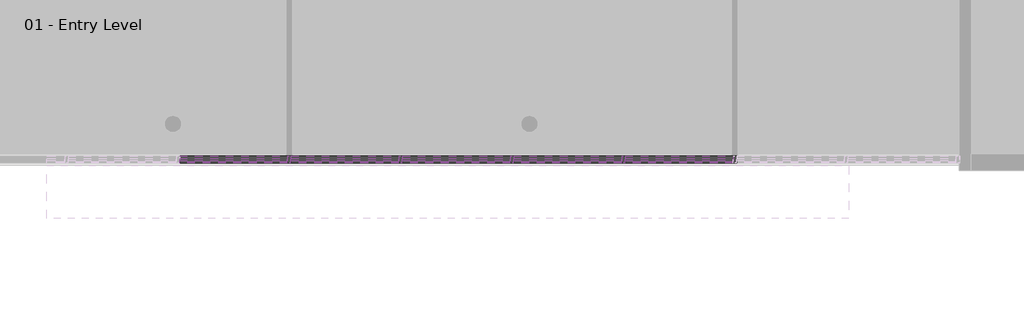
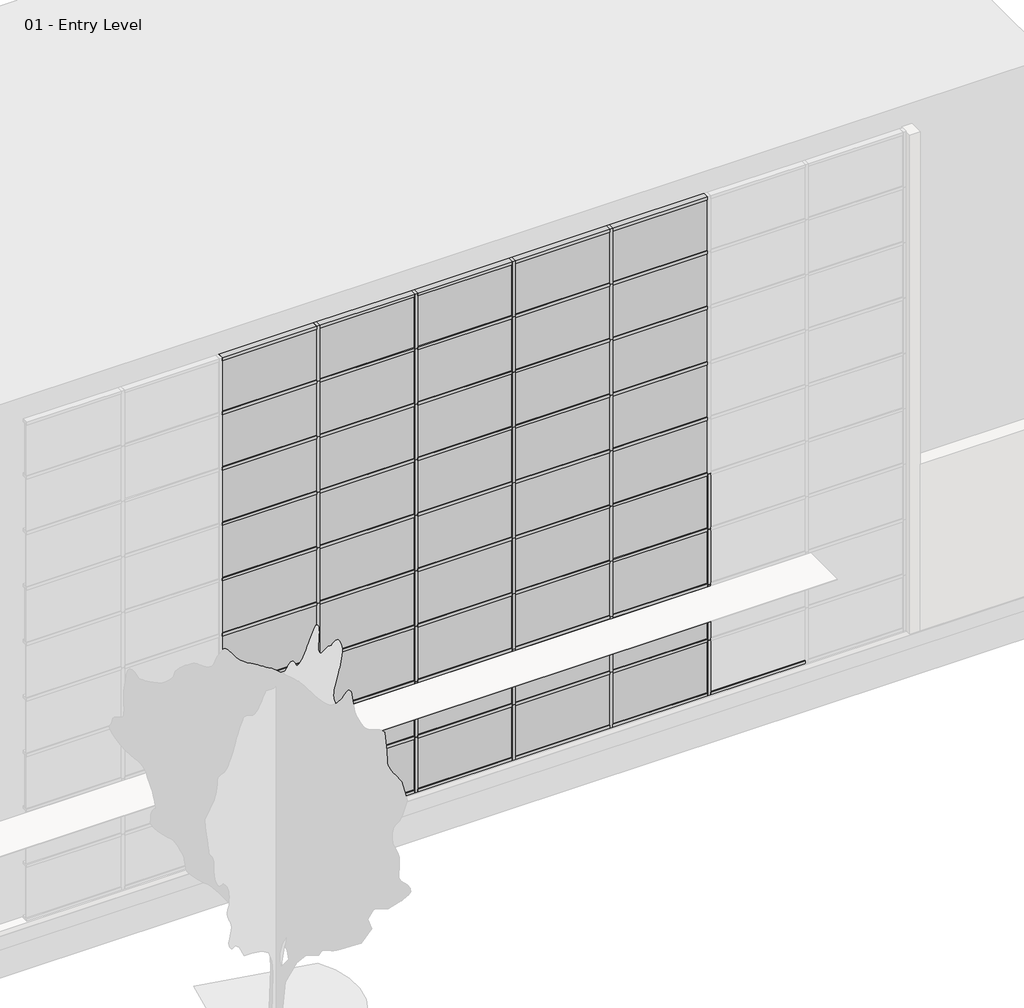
# One storey, part 5 of 35: 90 members, 42 plates.
"""IFC4 building model written with IfcOpenShell, lengths in millimetres."""

from ifc_helpers import new_model, si_unit, origin, place, context, project, spatial, transform, mapped, element, save
from components import member_2b49869a, member_391b434c, member_9e90ae50, system_panel_glazed_1b9d6098, system_panel_glazed_70da479d, system_panel_solid_b376696c, system_panel_solid_77e8b053

model = new_model("IFC4")

# Units and contexts
model_context = context("Model", 3, world=origin())
ifc_project = project(units=[si_unit("LENGTHUNIT", "METRE", prefix="MILLI")], contexts=[model_context])

# Site, building, storey
site = spatial("IfcSite", under=ifc_project)
building = spatial("IfcBuilding", under=site)
storey = spatial("IfcBuildingStorey", under=building, Name="01 - Entry Level", Elevation=0.0)

# Members
placement = place(None, origin())
member_shape = member_2b49869a(model_context)
element("IfcMember", 1, ObjectType="Rectangular Mullion : 2.5\" x 5\" rectangular", at=placement, inside=storey, context=model_context, shape_type="MappedRepresentation", body=[
    mapped(member_shape, transform((50915.2207476, -47.7, 9753.6), x_axis=(1.0, 0.0, 0.0), y_axis=(0.0, -1.0, 0.0), z_axis=(0.0, 0.0, -1.0))),
])
element("IfcMember", 2, ObjectType="Rectangular Mullion : 2.5\" x 5\" rectangular", at=placement, inside=storey, context=model_context, shape_type="MappedRepresentation", body=[
    mapped(member_shape, transform((52947.2207476, -47.7, 9753.6), x_axis=(1.0, 0.0, 0.0), y_axis=(0.0, -1.0, 0.0), z_axis=(0.0, 0.0, -1.0))),
])
element("IfcMember", 3, ObjectType="Rectangular Mullion : 2.5\" x 5\" rectangular", at=placement, inside=storey, context=model_context, shape_type="MappedRepresentation", body=[
    mapped(member_shape, transform((54979.2207476, -47.7, 9753.6), x_axis=(1.0, 0.0, 0.0), y_axis=(0.0, -1.0, 0.0), z_axis=(0.0, 0.0, -1.0))),
])
element("IfcMember", 4, ObjectType="Rectangular Mullion : 2.5\" x 5\" rectangular", at=placement, inside=storey, context=model_context, shape_type="MappedRepresentation", body=[
    mapped(member_shape, transform((57011.2207476, -47.7, 9753.6), x_axis=(1.0, 0.0, 0.0), y_axis=(0.0, -1.0, 0.0), z_axis=(0.0, 0.0, -1.0))),
])
member_2_shape = member_391b434c(model_context)
element("IfcMember", 5, ObjectType="Rectangular Mullion : 2.5\" x 5\" rectangular", at=placement, inside=storey, context=model_context, shape_type="MappedRepresentation", body=[
    mapped(member_2_shape, transform((50883.4707476, -47.7, 10972.8), x_axis=(0.0, 0.0, 1.0), y_axis=(0.0, -1.0, 0.0), z_axis=(1.0, 0.0, 0.0))),
])
element("IfcMember", 6, ObjectType="Rectangular Mullion : 2.5\" x 5\" rectangular", at=placement, inside=storey, context=model_context, shape_type="MappedRepresentation", body=[
    mapped(member_2_shape, transform((52915.4707476, -47.7, 10972.8), x_axis=(0.0, 0.0, 1.0), y_axis=(0.0, -1.0, 0.0), z_axis=(1.0, 0.0, 0.0))),
])
element("IfcMember", 7, ObjectType="Rectangular Mullion : 2.5\" x 5\" rectangular", at=placement, inside=storey, context=model_context, shape_type="MappedRepresentation", body=[
    mapped(member_2_shape, transform((54947.4707476, -47.7, 10972.8), x_axis=(0.0, 0.0, 1.0), y_axis=(0.0, -1.0, 0.0), z_axis=(1.0, 0.0, 0.0))),
])
element("IfcMember", 8, ObjectType="Rectangular Mullion : 2.5\" x 5\" rectangular", at=placement, inside=storey, context=model_context, shape_type="MappedRepresentation", body=[
    mapped(member_2_shape, transform((56979.4707476, -47.7, 10972.8), x_axis=(0.0, 0.0, 1.0), y_axis=(0.0, -1.0, 0.0), z_axis=(1.0, 0.0, 0.0))),
])
element("IfcMember", 9, ObjectType="Rectangular Mullion : 2.5\" x 5\" rectangular", at=placement, inside=storey, context=model_context, shape_type="MappedRepresentation", body=[
    mapped(member_2_shape, transform((59011.4707476, -47.7, 10972.8), x_axis=(0.0, 0.0, 1.0), y_axis=(0.0, -1.0, 0.0), z_axis=(1.0, 0.0, 0.0))),
])
element("IfcMember", 10, ObjectType="Rectangular Mullion : 2.5\" x 5\" rectangular", at=placement, inside=storey, context=model_context, shape_type="MappedRepresentation", body=[
    mapped(member_2_shape, transform((50946.9707476, -47.7, 0.0), x_axis=(0.0, 0.0, -1.0), y_axis=(0.0, -1.0, 0.0), z_axis=(-1.0, 0.0, 0.0))),
])
element("IfcMember", 11, ObjectType="Rectangular Mullion : 2.5\" x 5\" rectangular", at=placement, inside=storey, context=model_context, shape_type="MappedRepresentation", body=[
    mapped(member_2_shape, transform((52978.9707476, -47.7, 0.0), x_axis=(0.0, 0.0, -1.0), y_axis=(0.0, -1.0, 0.0), z_axis=(-1.0, 0.0, 0.0))),
])
element("IfcMember", 12, ObjectType="Rectangular Mullion : 2.5\" x 5\" rectangular", at=placement, inside=storey, context=model_context, shape_type="MappedRepresentation", body=[
    mapped(member_2_shape, transform((55010.9707476, -47.7, 0.0), x_axis=(0.0, 0.0, -1.0), y_axis=(0.0, -1.0, 0.0), z_axis=(-1.0, 0.0, 0.0))),
])
element("IfcMember", 13, ObjectType="Rectangular Mullion : 2.5\" x 5\" rectangular", at=placement, inside=storey, context=model_context, shape_type="MappedRepresentation", body=[
    mapped(member_2_shape, transform((57042.9707476, -47.7, 0.0), x_axis=(0.0, 0.0, -1.0), y_axis=(0.0, -1.0, 0.0), z_axis=(-1.0, 0.0, 0.0))),
])
element("IfcMember", 14, ObjectType="Rectangular Mullion : 2.5\" x 5\" rectangular", at=placement, inside=storey, context=model_context, shape_type="MappedRepresentation", body=[
    mapped(member_2_shape, transform((59074.9707476, -47.7, 0.0), x_axis=(0.0, 0.0, -1.0), y_axis=(0.0, -1.0, 0.0), z_axis=(-1.0, 0.0, 0.0))),
])
member_3_shape = member_9e90ae50(model_context)
element("IfcMember", 15, ObjectType="Rectangular Mullion : 2.5\" x 5\" rectangular", at=placement, inside=storey, context=model_context, shape_type="MappedRepresentation", body=[
    mapped(member_3_shape, transform((50883.4707476, -47.7, 1219.2), x_axis=(0.0, 0.0, 1.0), y_axis=(0.0, -1.0, 0.0), z_axis=(1.0, 0.0, 0.0))),
])
element("IfcMember", 16, ObjectType="Rectangular Mullion : 2.5\" x 5\" rectangular", at=placement, inside=storey, context=model_context, shape_type="MappedRepresentation", body=[
    mapped(member_3_shape, transform((52915.4707476, -47.7, 1219.2), x_axis=(0.0, 0.0, 1.0), y_axis=(0.0, -1.0, 0.0), z_axis=(1.0, 0.0, 0.0))),
])
element("IfcMember", 17, ObjectType="Rectangular Mullion : 2.5\" x 5\" rectangular", at=placement, inside=storey, context=model_context, shape_type="MappedRepresentation", body=[
    mapped(member_3_shape, transform((54947.4707476, -47.7, 1219.2), x_axis=(0.0, 0.0, 1.0), y_axis=(0.0, -1.0, 0.0), z_axis=(1.0, 0.0, 0.0))),
])
element("IfcMember", 18, ObjectType="Rectangular Mullion : 2.5\" x 5\" rectangular", at=placement, inside=storey, context=model_context, shape_type="MappedRepresentation", body=[
    mapped(member_3_shape, transform((56979.4707476, -47.7, 1219.2), x_axis=(0.0, 0.0, 1.0), y_axis=(0.0, -1.0, 0.0), z_axis=(1.0, 0.0, 0.0))),
])
element("IfcMember", 19, ObjectType="Rectangular Mullion : 2.5\" x 5\" rectangular", at=placement, inside=storey, context=model_context, shape_type="MappedRepresentation", body=[
    mapped(member_3_shape, transform((59011.4707476, -47.7, 1219.2), x_axis=(0.0, 0.0, 1.0), y_axis=(0.0, -1.0, 0.0), z_axis=(1.0, 0.0, 0.0))),
])
element("IfcMember", 20, ObjectType="Rectangular Mullion : 2.5\" x 5\" rectangular", at=placement, inside=storey, context=model_context, shape_type="MappedRepresentation", body=[
    mapped(member_3_shape, transform((50883.4707476, -47.7, 2438.4), x_axis=(0.0, 0.0, 1.0), y_axis=(0.0, -1.0, 0.0), z_axis=(1.0, 0.0, 0.0))),
])
element("IfcMember", 21, ObjectType="Rectangular Mullion : 2.5\" x 5\" rectangular", at=placement, inside=storey, context=model_context, shape_type="MappedRepresentation", body=[
    mapped(member_3_shape, transform((52915.4707476, -47.7, 2438.4), x_axis=(0.0, 0.0, 1.0), y_axis=(0.0, -1.0, 0.0), z_axis=(1.0, 0.0, 0.0))),
])
element("IfcMember", 22, ObjectType="Rectangular Mullion : 2.5\" x 5\" rectangular", at=placement, inside=storey, context=model_context, shape_type="MappedRepresentation", body=[
    mapped(member_3_shape, transform((54947.4707476, -47.7, 2438.4), x_axis=(0.0, 0.0, 1.0), y_axis=(0.0, -1.0, 0.0), z_axis=(1.0, 0.0, 0.0))),
])
element("IfcMember", 23, ObjectType="Rectangular Mullion : 2.5\" x 5\" rectangular", at=placement, inside=storey, context=model_context, shape_type="MappedRepresentation", body=[
    mapped(member_3_shape, transform((56979.4707476, -47.7, 2438.4), x_axis=(0.0, 0.0, 1.0), y_axis=(0.0, -1.0, 0.0), z_axis=(1.0, 0.0, 0.0))),
])
element("IfcMember", 24, ObjectType="Rectangular Mullion : 2.5\" x 5\" rectangular", at=placement, inside=storey, context=model_context, shape_type="MappedRepresentation", body=[
    mapped(member_3_shape, transform((59011.4707476, -47.7, 2438.4), x_axis=(0.0, 0.0, 1.0), y_axis=(0.0, -1.0, 0.0), z_axis=(1.0, 0.0, 0.0))),
])
element("IfcMember", 25, ObjectType="Rectangular Mullion : 2.5\" x 5\" rectangular", at=placement, inside=storey, context=model_context, shape_type="MappedRepresentation", body=[
    mapped(member_3_shape, transform((50883.4707476, -47.7, 3657.6), x_axis=(0.0, 0.0, 1.0), y_axis=(0.0, -1.0, 0.0), z_axis=(1.0, 0.0, 0.0))),
])
element("IfcMember", 26, ObjectType="Rectangular Mullion : 2.5\" x 5\" rectangular", at=placement, inside=storey, context=model_context, shape_type="MappedRepresentation", body=[
    mapped(member_3_shape, transform((52915.4707476, -47.7, 3657.6), x_axis=(0.0, 0.0, 1.0), y_axis=(0.0, -1.0, 0.0), z_axis=(1.0, 0.0, 0.0))),
])
element("IfcMember", 27, ObjectType="Rectangular Mullion : 2.5\" x 5\" rectangular", at=placement, inside=storey, context=model_context, shape_type="MappedRepresentation", body=[
    mapped(member_3_shape, transform((54947.4707476, -47.7, 3657.6), x_axis=(0.0, 0.0, 1.0), y_axis=(0.0, -1.0, 0.0), z_axis=(1.0, 0.0, 0.0))),
])
element("IfcMember", 28, ObjectType="Rectangular Mullion : 2.5\" x 5\" rectangular", at=placement, inside=storey, context=model_context, shape_type="MappedRepresentation", body=[
    mapped(member_3_shape, transform((56979.4707476, -47.7, 3657.6), x_axis=(0.0, 0.0, 1.0), y_axis=(0.0, -1.0, 0.0), z_axis=(1.0, 0.0, 0.0))),
])
element("IfcMember", 29, ObjectType="Rectangular Mullion : 2.5\" x 5\" rectangular", at=placement, inside=storey, context=model_context, shape_type="MappedRepresentation", body=[
    mapped(member_3_shape, transform((59011.4707476, -47.7, 3657.6), x_axis=(0.0, 0.0, 1.0), y_axis=(0.0, -1.0, 0.0), z_axis=(1.0, 0.0, 0.0))),
])
element("IfcMember", 30, ObjectType="Rectangular Mullion : 2.5\" x 5\" rectangular", at=placement, inside=storey, context=model_context, shape_type="MappedRepresentation", body=[
    mapped(member_3_shape, transform((50883.4707476, -47.7, 4876.8), x_axis=(0.0, 0.0, 1.0), y_axis=(0.0, -1.0, 0.0), z_axis=(1.0, 0.0, 0.0))),
])
element("IfcMember", 31, ObjectType="Rectangular Mullion : 2.5\" x 5\" rectangular", at=placement, inside=storey, context=model_context, shape_type="MappedRepresentation", body=[
    mapped(member_3_shape, transform((52915.4707476, -47.7, 4876.8), x_axis=(0.0, 0.0, 1.0), y_axis=(0.0, -1.0, 0.0), z_axis=(1.0, 0.0, 0.0))),
])
element("IfcMember", 32, ObjectType="Rectangular Mullion : 2.5\" x 5\" rectangular", at=placement, inside=storey, context=model_context, shape_type="MappedRepresentation", body=[
    mapped(member_3_shape, transform((54947.4707476, -47.7, 4876.8), x_axis=(0.0, 0.0, 1.0), y_axis=(0.0, -1.0, 0.0), z_axis=(1.0, 0.0, 0.0))),
])
element("IfcMember", 33, ObjectType="Rectangular Mullion : 2.5\" x 5\" rectangular", at=placement, inside=storey, context=model_context, shape_type="MappedRepresentation", body=[
    mapped(member_3_shape, transform((56979.4707476, -47.7, 4876.8), x_axis=(0.0, 0.0, 1.0), y_axis=(0.0, -1.0, 0.0), z_axis=(1.0, 0.0, 0.0))),
])
element("IfcMember", 34, ObjectType="Rectangular Mullion : 2.5\" x 5\" rectangular", at=placement, inside=storey, context=model_context, shape_type="MappedRepresentation", body=[
    mapped(member_3_shape, transform((59011.4707476, -47.7, 4876.8), x_axis=(0.0, 0.0, 1.0), y_axis=(0.0, -1.0, 0.0), z_axis=(1.0, 0.0, 0.0))),
])
element("IfcMember", 35, ObjectType="Rectangular Mullion : 2.5\" x 5\" rectangular", at=placement, inside=storey, context=model_context, shape_type="MappedRepresentation", body=[
    mapped(member_3_shape, transform((50883.4707476, -47.7, 6096.0), x_axis=(0.0, 0.0, 1.0), y_axis=(0.0, -1.0, 0.0), z_axis=(1.0, 0.0, 0.0))),
])
element("IfcMember", 36, ObjectType="Rectangular Mullion : 2.5\" x 5\" rectangular", at=placement, inside=storey, context=model_context, shape_type="MappedRepresentation", body=[
    mapped(member_3_shape, transform((52915.4707476, -47.7, 6096.0), x_axis=(0.0, 0.0, 1.0), y_axis=(0.0, -1.0, 0.0), z_axis=(1.0, 0.0, 0.0))),
])
element("IfcMember", 37, ObjectType="Rectangular Mullion : 2.5\" x 5\" rectangular", at=placement, inside=storey, context=model_context, shape_type="MappedRepresentation", body=[
    mapped(member_3_shape, transform((54947.4707476, -47.7, 6096.0), x_axis=(0.0, 0.0, 1.0), y_axis=(0.0, -1.0, 0.0), z_axis=(1.0, 0.0, 0.0))),
])
element("IfcMember", 38, ObjectType="Rectangular Mullion : 2.5\" x 5\" rectangular", at=placement, inside=storey, context=model_context, shape_type="MappedRepresentation", body=[
    mapped(member_3_shape, transform((56979.4707476, -47.7, 6096.0), x_axis=(0.0, 0.0, 1.0), y_axis=(0.0, -1.0, 0.0), z_axis=(1.0, 0.0, 0.0))),
])
element("IfcMember", 39, ObjectType="Rectangular Mullion : 2.5\" x 5\" rectangular", at=placement, inside=storey, context=model_context, shape_type="MappedRepresentation", body=[
    mapped(member_3_shape, transform((59011.4707476, -47.7, 6096.0), x_axis=(0.0, 0.0, 1.0), y_axis=(0.0, -1.0, 0.0), z_axis=(1.0, 0.0, 0.0))),
])
element("IfcMember", 40, ObjectType="Rectangular Mullion : 2.5\" x 5\" rectangular", at=placement, inside=storey, context=model_context, shape_type="MappedRepresentation", body=[
    mapped(member_3_shape, transform((50883.4707476, -47.7, 7315.2), x_axis=(0.0, 0.0, 1.0), y_axis=(0.0, -1.0, 0.0), z_axis=(1.0, 0.0, 0.0))),
])
element("IfcMember", 41, ObjectType="Rectangular Mullion : 2.5\" x 5\" rectangular", at=placement, inside=storey, context=model_context, shape_type="MappedRepresentation", body=[
    mapped(member_3_shape, transform((52915.4707476, -47.7, 7315.2), x_axis=(0.0, 0.0, 1.0), y_axis=(0.0, -1.0, 0.0), z_axis=(1.0, 0.0, 0.0))),
])
element("IfcMember", 42, ObjectType="Rectangular Mullion : 2.5\" x 5\" rectangular", at=placement, inside=storey, context=model_context, shape_type="MappedRepresentation", body=[
    mapped(member_3_shape, transform((54947.4707476, -47.7, 7315.2), x_axis=(0.0, 0.0, 1.0), y_axis=(0.0, -1.0, 0.0), z_axis=(1.0, 0.0, 0.0))),
])
element("IfcMember", 43, ObjectType="Rectangular Mullion : 2.5\" x 5\" rectangular", at=placement, inside=storey, context=model_context, shape_type="MappedRepresentation", body=[
    mapped(member_3_shape, transform((56979.4707476, -47.7, 7315.2), x_axis=(0.0, 0.0, 1.0), y_axis=(0.0, -1.0, 0.0), z_axis=(1.0, 0.0, 0.0))),
])
element("IfcMember", 44, ObjectType="Rectangular Mullion : 2.5\" x 5\" rectangular", at=placement, inside=storey, context=model_context, shape_type="MappedRepresentation", body=[
    mapped(member_3_shape, transform((59011.4707476, -47.7, 7315.2), x_axis=(0.0, 0.0, 1.0), y_axis=(0.0, -1.0, 0.0), z_axis=(1.0, 0.0, 0.0))),
])
element("IfcMember", 45, ObjectType="Rectangular Mullion : 2.5\" x 5\" rectangular", at=placement, inside=storey, context=model_context, shape_type="MappedRepresentation", body=[
    mapped(member_3_shape, transform((50883.4707476, -47.7, 8534.4), x_axis=(0.0, 0.0, 1.0), y_axis=(0.0, -1.0, 0.0), z_axis=(1.0, 0.0, 0.0))),
])
element("IfcMember", 46, ObjectType="Rectangular Mullion : 2.5\" x 5\" rectangular", at=placement, inside=storey, context=model_context, shape_type="MappedRepresentation", body=[
    mapped(member_3_shape, transform((52915.4707476, -47.7, 8534.4), x_axis=(0.0, 0.0, 1.0), y_axis=(0.0, -1.0, 0.0), z_axis=(1.0, 0.0, 0.0))),
])
element("IfcMember", 47, ObjectType="Rectangular Mullion : 2.5\" x 5\" rectangular", at=placement, inside=storey, context=model_context, shape_type="MappedRepresentation", body=[
    mapped(member_3_shape, transform((54947.4707476, -47.7, 8534.4), x_axis=(0.0, 0.0, 1.0), y_axis=(0.0, -1.0, 0.0), z_axis=(1.0, 0.0, 0.0))),
])
element("IfcMember", 48, ObjectType="Rectangular Mullion : 2.5\" x 5\" rectangular", at=placement, inside=storey, context=model_context, shape_type="MappedRepresentation", body=[
    mapped(member_3_shape, transform((56979.4707476, -47.7, 8534.4), x_axis=(0.0, 0.0, 1.0), y_axis=(0.0, -1.0, 0.0), z_axis=(1.0, 0.0, 0.0))),
])
element("IfcMember", 49, ObjectType="Rectangular Mullion : 2.5\" x 5\" rectangular", at=placement, inside=storey, context=model_context, shape_type="MappedRepresentation", body=[
    mapped(member_3_shape, transform((59011.4707476, -47.7, 8534.4), x_axis=(0.0, 0.0, 1.0), y_axis=(0.0, -1.0, 0.0), z_axis=(1.0, 0.0, 0.0))),
])
element("IfcMember", 50, ObjectType="Rectangular Mullion : 2.5\" x 5\" rectangular", at=placement, inside=storey, context=model_context, shape_type="MappedRepresentation", body=[
    mapped(member_3_shape, transform((50883.4707476, -47.7, 9753.6), x_axis=(0.0, 0.0, 1.0), y_axis=(0.0, -1.0, 0.0), z_axis=(1.0, 0.0, 0.0))),
])
element("IfcMember", 51, ObjectType="Rectangular Mullion : 2.5\" x 5\" rectangular", at=placement, inside=storey, context=model_context, shape_type="MappedRepresentation", body=[
    mapped(member_3_shape, transform((52915.4707476, -47.7, 9753.6), x_axis=(0.0, 0.0, 1.0), y_axis=(0.0, -1.0, 0.0), z_axis=(1.0, 0.0, 0.0))),
])
element("IfcMember", 52, ObjectType="Rectangular Mullion : 2.5\" x 5\" rectangular", at=placement, inside=storey, context=model_context, shape_type="MappedRepresentation", body=[
    mapped(member_3_shape, transform((54947.4707476, -47.7, 9753.6), x_axis=(0.0, 0.0, 1.0), y_axis=(0.0, -1.0, 0.0), z_axis=(1.0, 0.0, 0.0))),
])
element("IfcMember", 53, ObjectType="Rectangular Mullion : 2.5\" x 5\" rectangular", at=placement, inside=storey, context=model_context, shape_type="MappedRepresentation", body=[
    mapped(member_3_shape, transform((56979.4707476, -47.7, 9753.6), x_axis=(0.0, 0.0, 1.0), y_axis=(0.0, -1.0, 0.0), z_axis=(1.0, 0.0, 0.0))),
])
element("IfcMember", 54, ObjectType="Rectangular Mullion : 2.5\" x 5\" rectangular", at=placement, inside=storey, context=model_context, shape_type="MappedRepresentation", body=[
    mapped(member_3_shape, transform((59011.4707476, -47.7, 9753.6), x_axis=(0.0, 0.0, 1.0), y_axis=(0.0, -1.0, 0.0), z_axis=(1.0, 0.0, 0.0))),
])
element("IfcMember", 55, ObjectType="Rectangular Mullion : 2.5\" x 5\" rectangular", at=placement, inside=storey, context=model_context, shape_type="MappedRepresentation", body=[
    mapped(member_shape, transform((50915.2207476, -47.7, 0.0), x_axis=(1.0, 0.0, 0.0), y_axis=(0.0, -1.0, 0.0), z_axis=(0.0, 0.0, -1.0))),
])
element("IfcMember", 56, ObjectType="Rectangular Mullion : 2.5\" x 5\" rectangular", at=placement, inside=storey, context=model_context, shape_type="MappedRepresentation", body=[
    mapped(member_shape, transform((52947.2207476, -47.7, 0.0), x_axis=(1.0, 0.0, 0.0), y_axis=(0.0, -1.0, 0.0), z_axis=(0.0, 0.0, -1.0))),
])
element("IfcMember", 57, ObjectType="Rectangular Mullion : 2.5\" x 5\" rectangular", at=placement, inside=storey, context=model_context, shape_type="MappedRepresentation", body=[
    mapped(member_shape, transform((54979.2207476, -47.7, 0.0), x_axis=(1.0, 0.0, 0.0), y_axis=(0.0, -1.0, 0.0), z_axis=(0.0, 0.0, -1.0))),
])
element("IfcMember", 58, ObjectType="Rectangular Mullion : 2.5\" x 5\" rectangular", at=placement, inside=storey, context=model_context, shape_type="MappedRepresentation", body=[
    mapped(member_shape, transform((57011.2207476, -47.7, 0.0), x_axis=(1.0, 0.0, 0.0), y_axis=(0.0, -1.0, 0.0), z_axis=(0.0, 0.0, -1.0))),
])
element("IfcMember", 59, ObjectType="Rectangular Mullion : 2.5\" x 5\" rectangular", at=placement, inside=storey, context=model_context, shape_type="MappedRepresentation", body=[
    mapped(member_shape, transform((59043.2207476, -47.7, 0.0), x_axis=(1.0, 0.0, 0.0), y_axis=(0.0, -1.0, 0.0), z_axis=(0.0, 0.0, -1.0))),
])
element("IfcMember", 60, ObjectType="Rectangular Mullion : 2.5\" x 5\" rectangular", at=placement, inside=storey, context=model_context, shape_type="MappedRepresentation", body=[
    mapped(member_shape, transform((50915.2207476, -47.7, 1219.2), x_axis=(1.0, 0.0, 0.0), y_axis=(0.0, -1.0, 0.0), z_axis=(0.0, 0.0, -1.0))),
])
element("IfcMember", 61, ObjectType="Rectangular Mullion : 2.5\" x 5\" rectangular", at=placement, inside=storey, context=model_context, shape_type="MappedRepresentation", body=[
    mapped(member_shape, transform((52947.2207476, -47.7, 1219.2), x_axis=(1.0, 0.0, 0.0), y_axis=(0.0, -1.0, 0.0), z_axis=(0.0, 0.0, -1.0))),
])
element("IfcMember", 62, ObjectType="Rectangular Mullion : 2.5\" x 5\" rectangular", at=placement, inside=storey, context=model_context, shape_type="MappedRepresentation", body=[
    mapped(member_shape, transform((54979.2207476, -47.7, 1219.2), x_axis=(1.0, 0.0, 0.0), y_axis=(0.0, -1.0, 0.0), z_axis=(0.0, 0.0, -1.0))),
])
element("IfcMember", 63, ObjectType="Rectangular Mullion : 2.5\" x 5\" rectangular", at=placement, inside=storey, context=model_context, shape_type="MappedRepresentation", body=[
    mapped(member_shape, transform((57011.2207476, -47.7, 1219.2), x_axis=(1.0, 0.0, 0.0), y_axis=(0.0, -1.0, 0.0), z_axis=(0.0, 0.0, -1.0))),
])
element("IfcMember", 64, ObjectType="Rectangular Mullion : 2.5\" x 5\" rectangular", at=placement, inside=storey, context=model_context, shape_type="MappedRepresentation", body=[
    mapped(member_shape, transform((59043.2207476, -47.7, 1219.2), x_axis=(1.0, 0.0, 0.0), y_axis=(0.0, -1.0, 0.0), z_axis=(0.0, 0.0, -1.0))),
])
element("IfcMember", 65, ObjectType="Rectangular Mullion : 2.5\" x 5\" rectangular", at=placement, inside=storey, context=model_context, shape_type="MappedRepresentation", body=[
    mapped(member_shape, transform((50915.2207476, -47.7, 2438.4), x_axis=(1.0, 0.0, 0.0), y_axis=(0.0, -1.0, 0.0), z_axis=(0.0, 0.0, -1.0))),
])
element("IfcMember", 66, ObjectType="Rectangular Mullion : 2.5\" x 5\" rectangular", at=placement, inside=storey, context=model_context, shape_type="MappedRepresentation", body=[
    mapped(member_shape, transform((52947.2207476, -47.7, 2438.4), x_axis=(1.0, 0.0, 0.0), y_axis=(0.0, -1.0, 0.0), z_axis=(0.0, 0.0, -1.0))),
])
element("IfcMember", 67, ObjectType="Rectangular Mullion : 2.5\" x 5\" rectangular", at=placement, inside=storey, context=model_context, shape_type="MappedRepresentation", body=[
    mapped(member_shape, transform((54979.2207476, -47.7, 2438.4), x_axis=(1.0, 0.0, 0.0), y_axis=(0.0, -1.0, 0.0), z_axis=(0.0, 0.0, -1.0))),
])
element("IfcMember", 68, ObjectType="Rectangular Mullion : 2.5\" x 5\" rectangular", at=placement, inside=storey, context=model_context, shape_type="MappedRepresentation", body=[
    mapped(member_shape, transform((57011.2207476, -47.7, 2438.4), x_axis=(1.0, 0.0, 0.0), y_axis=(0.0, -1.0, 0.0), z_axis=(0.0, 0.0, -1.0))),
])
element("IfcMember", 69, ObjectType="Rectangular Mullion : 2.5\" x 5\" rectangular", at=placement, inside=storey, context=model_context, shape_type="MappedRepresentation", body=[
    mapped(member_shape, transform((59043.2207476, -47.7, 2438.4), x_axis=(1.0, 0.0, 0.0), y_axis=(0.0, -1.0, 0.0), z_axis=(0.0, 0.0, -1.0))),
])
element("IfcMember", 70, ObjectType="Rectangular Mullion : 2.5\" x 5\" rectangular", at=placement, inside=storey, context=model_context, shape_type="MappedRepresentation", body=[
    mapped(member_shape, transform((50915.2207476, -47.7, 3657.6), x_axis=(1.0, 0.0, 0.0), y_axis=(0.0, -1.0, 0.0), z_axis=(0.0, 0.0, -1.0))),
])
element("IfcMember", 71, ObjectType="Rectangular Mullion : 2.5\" x 5\" rectangular", at=placement, inside=storey, context=model_context, shape_type="MappedRepresentation", body=[
    mapped(member_shape, transform((52947.2207476, -47.7, 3657.6), x_axis=(1.0, 0.0, 0.0), y_axis=(0.0, -1.0, 0.0), z_axis=(0.0, 0.0, -1.0))),
])
element("IfcMember", 72, ObjectType="Rectangular Mullion : 2.5\" x 5\" rectangular", at=placement, inside=storey, context=model_context, shape_type="MappedRepresentation", body=[
    mapped(member_shape, transform((54979.2207476, -47.7, 3657.6), x_axis=(1.0, 0.0, 0.0), y_axis=(0.0, -1.0, 0.0), z_axis=(0.0, 0.0, -1.0))),
])
element("IfcMember", 73, ObjectType="Rectangular Mullion : 2.5\" x 5\" rectangular", at=placement, inside=storey, context=model_context, shape_type="MappedRepresentation", body=[
    mapped(member_shape, transform((57011.2207476, -47.7, 3657.6), x_axis=(1.0, 0.0, 0.0), y_axis=(0.0, -1.0, 0.0), z_axis=(0.0, 0.0, -1.0))),
])
element("IfcMember", 74, ObjectType="Rectangular Mullion : 2.5\" x 5\" rectangular", at=placement, inside=storey, context=model_context, shape_type="MappedRepresentation", body=[
    mapped(member_shape, transform((59043.2207476, -47.7, 3657.6), x_axis=(1.0, 0.0, 0.0), y_axis=(0.0, -1.0, 0.0), z_axis=(0.0, 0.0, -1.0))),
])
element("IfcMember", 75, ObjectType="Rectangular Mullion : 2.5\" x 5\" rectangular", at=placement, inside=storey, context=model_context, shape_type="MappedRepresentation", body=[
    mapped(member_shape, transform((50915.2207476, -47.7, 4876.8), x_axis=(1.0, 0.0, 0.0), y_axis=(0.0, -1.0, 0.0), z_axis=(0.0, 0.0, -1.0))),
])
element("IfcMember", 76, ObjectType="Rectangular Mullion : 2.5\" x 5\" rectangular", at=placement, inside=storey, context=model_context, shape_type="MappedRepresentation", body=[
    mapped(member_shape, transform((52947.2207476, -47.7, 4876.8), x_axis=(1.0, 0.0, 0.0), y_axis=(0.0, -1.0, 0.0), z_axis=(0.0, 0.0, -1.0))),
])
element("IfcMember", 77, ObjectType="Rectangular Mullion : 2.5\" x 5\" rectangular", at=placement, inside=storey, context=model_context, shape_type="MappedRepresentation", body=[
    mapped(member_shape, transform((54979.2207476, -47.7, 4876.8), x_axis=(1.0, 0.0, 0.0), y_axis=(0.0, -1.0, 0.0), z_axis=(0.0, 0.0, -1.0))),
])
element("IfcMember", 78, ObjectType="Rectangular Mullion : 2.5\" x 5\" rectangular", at=placement, inside=storey, context=model_context, shape_type="MappedRepresentation", body=[
    mapped(member_shape, transform((57011.2207476, -47.7, 4876.8), x_axis=(1.0, 0.0, 0.0), y_axis=(0.0, -1.0, 0.0), z_axis=(0.0, 0.0, -1.0))),
])
element("IfcMember", 79, ObjectType="Rectangular Mullion : 2.5\" x 5\" rectangular", at=placement, inside=storey, context=model_context, shape_type="MappedRepresentation", body=[
    mapped(member_shape, transform((50915.2207476, -47.7, 6096.0), x_axis=(1.0, 0.0, 0.0), y_axis=(0.0, -1.0, 0.0), z_axis=(0.0, 0.0, -1.0))),
])
element("IfcMember", 80, ObjectType="Rectangular Mullion : 2.5\" x 5\" rectangular", at=placement, inside=storey, context=model_context, shape_type="MappedRepresentation", body=[
    mapped(member_shape, transform((52947.2207476, -47.7, 6096.0), x_axis=(1.0, 0.0, 0.0), y_axis=(0.0, -1.0, 0.0), z_axis=(0.0, 0.0, -1.0))),
])
element("IfcMember", 81, ObjectType="Rectangular Mullion : 2.5\" x 5\" rectangular", at=placement, inside=storey, context=model_context, shape_type="MappedRepresentation", body=[
    mapped(member_shape, transform((54979.2207476, -47.7, 6096.0), x_axis=(1.0, 0.0, 0.0), y_axis=(0.0, -1.0, 0.0), z_axis=(0.0, 0.0, -1.0))),
])
element("IfcMember", 82, ObjectType="Rectangular Mullion : 2.5\" x 5\" rectangular", at=placement, inside=storey, context=model_context, shape_type="MappedRepresentation", body=[
    mapped(member_shape, transform((57011.2207476, -47.7, 6096.0), x_axis=(1.0, 0.0, 0.0), y_axis=(0.0, -1.0, 0.0), z_axis=(0.0, 0.0, -1.0))),
])
element("IfcMember", 83, ObjectType="Rectangular Mullion : 2.5\" x 5\" rectangular", at=placement, inside=storey, context=model_context, shape_type="MappedRepresentation", body=[
    mapped(member_shape, transform((50915.2207476, -47.7, 7315.2), x_axis=(1.0, 0.0, 0.0), y_axis=(0.0, -1.0, 0.0), z_axis=(0.0, 0.0, -1.0))),
])
element("IfcMember", 84, ObjectType="Rectangular Mullion : 2.5\" x 5\" rectangular", at=placement, inside=storey, context=model_context, shape_type="MappedRepresentation", body=[
    mapped(member_shape, transform((52947.2207476, -47.7, 7315.2), x_axis=(1.0, 0.0, 0.0), y_axis=(0.0, -1.0, 0.0), z_axis=(0.0, 0.0, -1.0))),
])
element("IfcMember", 85, ObjectType="Rectangular Mullion : 2.5\" x 5\" rectangular", at=placement, inside=storey, context=model_context, shape_type="MappedRepresentation", body=[
    mapped(member_shape, transform((54979.2207476, -47.7, 7315.2), x_axis=(1.0, 0.0, 0.0), y_axis=(0.0, -1.0, 0.0), z_axis=(0.0, 0.0, -1.0))),
])
element("IfcMember", 86, ObjectType="Rectangular Mullion : 2.5\" x 5\" rectangular", at=placement, inside=storey, context=model_context, shape_type="MappedRepresentation", body=[
    mapped(member_shape, transform((57011.2207476, -47.7, 7315.2), x_axis=(1.0, 0.0, 0.0), y_axis=(0.0, -1.0, 0.0), z_axis=(0.0, 0.0, -1.0))),
])
element("IfcMember", 87, ObjectType="Rectangular Mullion : 2.5\" x 5\" rectangular", at=placement, inside=storey, context=model_context, shape_type="MappedRepresentation", body=[
    mapped(member_shape, transform((50915.2207476, -47.7, 8534.4), x_axis=(1.0, 0.0, 0.0), y_axis=(0.0, -1.0, 0.0), z_axis=(0.0, 0.0, -1.0))),
])
element("IfcMember", 88, ObjectType="Rectangular Mullion : 2.5\" x 5\" rectangular", at=placement, inside=storey, context=model_context, shape_type="MappedRepresentation", body=[
    mapped(member_shape, transform((52947.2207476, -47.7, 8534.4), x_axis=(1.0, 0.0, 0.0), y_axis=(0.0, -1.0, 0.0), z_axis=(0.0, 0.0, -1.0))),
])
element("IfcMember", 89, ObjectType="Rectangular Mullion : 2.5\" x 5\" rectangular", at=placement, inside=storey, context=model_context, shape_type="MappedRepresentation", body=[
    mapped(member_shape, transform((54979.2207476, -47.7, 8534.4), x_axis=(1.0, 0.0, 0.0), y_axis=(0.0, -1.0, 0.0), z_axis=(0.0, 0.0, -1.0))),
])
element("IfcMember", 90, ObjectType="Rectangular Mullion : 2.5\" x 5\" rectangular", at=placement, inside=storey, context=model_context, shape_type="MappedRepresentation", body=[
    mapped(member_shape, transform((57011.2207476, -47.7, 8534.4), x_axis=(1.0, 0.0, 0.0), y_axis=(0.0, -1.0, 0.0), z_axis=(0.0, 0.0, -1.0))),
])

# Plates
system_panel_glazed_shape = system_panel_glazed_1b9d6098(model_context)
element("IfcPlate", 91, ObjectType="System Panel : Glazed", at=placement, inside=storey, context=model_context, shape_type="MappedRepresentation", body=[
    mapped(system_panel_glazed_shape, transform((51931.2207476, -47.7, 63.5), x_axis=(1.0, 0.0, 0.0), y_axis=(0.0, 1.0, 0.0), z_axis=(0.0, 0.0, 1.0))),
])
element("IfcPlate", 92, ObjectType="System Panel : Glazed", at=placement, inside=storey, context=model_context, shape_type="MappedRepresentation", body=[
    mapped(system_panel_glazed_shape, transform((53963.2207476, -47.7, 63.5), x_axis=(1.0, 0.0, 0.0), y_axis=(0.0, 1.0, 0.0), z_axis=(0.0, 0.0, 1.0))),
])
element("IfcPlate", 93, ObjectType="System Panel : Glazed", at=placement, inside=storey, context=model_context, shape_type="MappedRepresentation", body=[
    mapped(system_panel_glazed_shape, transform((55995.2207476, -47.7, 63.5), x_axis=(1.0, 0.0, 0.0), y_axis=(0.0, 1.0, 0.0), z_axis=(0.0, 0.0, 1.0))),
])
element("IfcPlate", 94, ObjectType="System Panel : Glazed", at=placement, inside=storey, context=model_context, shape_type="MappedRepresentation", body=[
    mapped(system_panel_glazed_shape, transform((58027.2207476, -47.7, 63.5), x_axis=(1.0, 0.0, 0.0), y_axis=(0.0, 1.0, 0.0), z_axis=(0.0, 0.0, 1.0))),
])
system_panel_glazed_2_shape = system_panel_glazed_70da479d(model_context)
element("IfcPlate", 95, ObjectType="System Panel : Glazed", at=placement, inside=storey, context=model_context, shape_type="MappedRepresentation", body=[
    mapped(system_panel_glazed_2_shape, transform((51931.2207476, -47.7, 1250.95), x_axis=(1.0, 0.0, 0.0), y_axis=(0.0, 1.0, 0.0), z_axis=(0.0, 0.0, 1.0))),
])
element("IfcPlate", 96, ObjectType="System Panel : Glazed", at=placement, inside=storey, context=model_context, shape_type="MappedRepresentation", body=[
    mapped(system_panel_glazed_2_shape, transform((53963.2207476, -47.7, 1250.95), x_axis=(1.0, 0.0, 0.0), y_axis=(0.0, 1.0, 0.0), z_axis=(0.0, 0.0, 1.0))),
])
element("IfcPlate", 97, ObjectType="System Panel : Glazed", at=placement, inside=storey, context=model_context, shape_type="MappedRepresentation", body=[
    mapped(system_panel_glazed_2_shape, transform((55995.2207476, -47.7, 1250.95), x_axis=(1.0, 0.0, 0.0), y_axis=(0.0, 1.0, 0.0), z_axis=(0.0, 0.0, 1.0))),
])
element("IfcPlate", 98, ObjectType="System Panel : Glazed", at=placement, inside=storey, context=model_context, shape_type="MappedRepresentation", body=[
    mapped(system_panel_glazed_2_shape, transform((58027.2207476, -47.7, 1250.95), x_axis=(1.0, 0.0, 0.0), y_axis=(0.0, 1.0, 0.0), z_axis=(0.0, 0.0, 1.0))),
])
element("IfcPlate", 99, ObjectType="System Panel : Glazed", at=placement, inside=storey, context=model_context, shape_type="MappedRepresentation", body=[
    mapped(system_panel_glazed_2_shape, transform((49899.2207476, -47.7, 3689.35), x_axis=(1.0, 0.0, 0.0), y_axis=(0.0, 1.0, 0.0), z_axis=(0.0, 0.0, 1.0))),
])
element("IfcPlate", 100, ObjectType="System Panel : Glazed", at=placement, inside=storey, context=model_context, shape_type="MappedRepresentation", body=[
    mapped(system_panel_glazed_2_shape, transform((51931.2207476, -47.7, 3689.35), x_axis=(1.0, 0.0, 0.0), y_axis=(0.0, 1.0, 0.0), z_axis=(0.0, 0.0, 1.0))),
])
element("IfcPlate", 101, ObjectType="System Panel : Glazed", at=placement, inside=storey, context=model_context, shape_type="MappedRepresentation", body=[
    mapped(system_panel_glazed_2_shape, transform((53963.2207476, -47.7, 3689.35), x_axis=(1.0, 0.0, 0.0), y_axis=(0.0, 1.0, 0.0), z_axis=(0.0, 0.0, 1.0))),
])
element("IfcPlate", 102, ObjectType="System Panel : Glazed", at=placement, inside=storey, context=model_context, shape_type="MappedRepresentation", body=[
    mapped(system_panel_glazed_2_shape, transform((55995.2207476, -47.7, 3689.35), x_axis=(1.0, 0.0, 0.0), y_axis=(0.0, 1.0, 0.0), z_axis=(0.0, 0.0, 1.0))),
])
element("IfcPlate", 103, ObjectType="System Panel : Glazed", at=placement, inside=storey, context=model_context, shape_type="MappedRepresentation", body=[
    mapped(system_panel_glazed_2_shape, transform((58027.2207476, -47.7, 3689.35), x_axis=(1.0, 0.0, 0.0), y_axis=(0.0, 1.0, 0.0), z_axis=(0.0, 0.0, 1.0))),
])
element("IfcPlate", 104, ObjectType="System Panel : Glazed", at=placement, inside=storey, context=model_context, shape_type="MappedRepresentation", body=[
    mapped(system_panel_glazed_2_shape, transform((49899.2207476, -47.7, 4908.55), x_axis=(1.0, 0.0, 0.0), y_axis=(0.0, 1.0, 0.0), z_axis=(0.0, 0.0, 1.0))),
])
element("IfcPlate", 105, ObjectType="System Panel : Glazed", at=placement, inside=storey, context=model_context, shape_type="MappedRepresentation", body=[
    mapped(system_panel_glazed_2_shape, transform((51931.2207476, -47.7, 4908.55), x_axis=(1.0, 0.0, 0.0), y_axis=(0.0, 1.0, 0.0), z_axis=(0.0, 0.0, 1.0))),
])
element("IfcPlate", 106, ObjectType="System Panel : Glazed", at=placement, inside=storey, context=model_context, shape_type="MappedRepresentation", body=[
    mapped(system_panel_glazed_2_shape, transform((53963.2207476, -47.7, 4908.55), x_axis=(1.0, 0.0, 0.0), y_axis=(0.0, 1.0, 0.0), z_axis=(0.0, 0.0, 1.0))),
])
element("IfcPlate", 107, ObjectType="System Panel : Glazed", at=placement, inside=storey, context=model_context, shape_type="MappedRepresentation", body=[
    mapped(system_panel_glazed_2_shape, transform((55995.2207476, -47.7, 4908.55), x_axis=(1.0, 0.0, 0.0), y_axis=(0.0, 1.0, 0.0), z_axis=(0.0, 0.0, 1.0))),
])
element("IfcPlate", 108, ObjectType="System Panel : Glazed", at=placement, inside=storey, context=model_context, shape_type="MappedRepresentation", body=[
    mapped(system_panel_glazed_2_shape, transform((58027.2207476, -47.7, 4908.55), x_axis=(1.0, 0.0, 0.0), y_axis=(0.0, 1.0, 0.0), z_axis=(0.0, 0.0, 1.0))),
])
element("IfcPlate", 109, ObjectType="System Panel : Glazed", at=placement, inside=storey, context=model_context, shape_type="MappedRepresentation", body=[
    mapped(system_panel_glazed_2_shape, transform((49899.2207476, -47.7, 7346.95), x_axis=(1.0, 0.0, 0.0), y_axis=(0.0, 1.0, 0.0), z_axis=(0.0, 0.0, 1.0))),
])
element("IfcPlate", 110, ObjectType="System Panel : Glazed", at=placement, inside=storey, context=model_context, shape_type="MappedRepresentation", body=[
    mapped(system_panel_glazed_2_shape, transform((51931.2207476, -47.7, 7346.95), x_axis=(1.0, 0.0, 0.0), y_axis=(0.0, 1.0, 0.0), z_axis=(0.0, 0.0, 1.0))),
])
element("IfcPlate", 111, ObjectType="System Panel : Glazed", at=placement, inside=storey, context=model_context, shape_type="MappedRepresentation", body=[
    mapped(system_panel_glazed_2_shape, transform((53963.2207476, -47.7, 7346.95), x_axis=(1.0, 0.0, 0.0), y_axis=(0.0, 1.0, 0.0), z_axis=(0.0, 0.0, 1.0))),
])
element("IfcPlate", 112, ObjectType="System Panel : Glazed", at=placement, inside=storey, context=model_context, shape_type="MappedRepresentation", body=[
    mapped(system_panel_glazed_2_shape, transform((55995.2207476, -47.7, 7346.95), x_axis=(1.0, 0.0, 0.0), y_axis=(0.0, 1.0, 0.0), z_axis=(0.0, 0.0, 1.0))),
])
element("IfcPlate", 113, ObjectType="System Panel : Glazed", at=placement, inside=storey, context=model_context, shape_type="MappedRepresentation", body=[
    mapped(system_panel_glazed_2_shape, transform((58027.2207476, -47.7, 7346.95), x_axis=(1.0, 0.0, 0.0), y_axis=(0.0, 1.0, 0.0), z_axis=(0.0, 0.0, 1.0))),
])
element("IfcPlate", 114, ObjectType="System Panel : Glazed", at=placement, inside=storey, context=model_context, shape_type="MappedRepresentation", body=[
    mapped(system_panel_glazed_2_shape, transform((49899.2207476, -47.7, 8566.15), x_axis=(1.0, 0.0, 0.0), y_axis=(0.0, 1.0, 0.0), z_axis=(0.0, 0.0, 1.0))),
])
element("IfcPlate", 115, ObjectType="System Panel : Glazed", at=placement, inside=storey, context=model_context, shape_type="MappedRepresentation", body=[
    mapped(system_panel_glazed_2_shape, transform((51931.2207476, -47.7, 8566.15), x_axis=(1.0, 0.0, 0.0), y_axis=(0.0, 1.0, 0.0), z_axis=(0.0, 0.0, 1.0))),
])
element("IfcPlate", 116, ObjectType="System Panel : Glazed", at=placement, inside=storey, context=model_context, shape_type="MappedRepresentation", body=[
    mapped(system_panel_glazed_2_shape, transform((53963.2207476, -47.7, 8566.15), x_axis=(1.0, 0.0, 0.0), y_axis=(0.0, 1.0, 0.0), z_axis=(0.0, 0.0, 1.0))),
])
element("IfcPlate", 117, ObjectType="System Panel : Glazed", at=placement, inside=storey, context=model_context, shape_type="MappedRepresentation", body=[
    mapped(system_panel_glazed_2_shape, transform((55995.2207476, -47.7, 8566.15), x_axis=(1.0, 0.0, 0.0), y_axis=(0.0, 1.0, 0.0), z_axis=(0.0, 0.0, 1.0))),
])
element("IfcPlate", 118, ObjectType="System Panel : Glazed", at=placement, inside=storey, context=model_context, shape_type="MappedRepresentation", body=[
    mapped(system_panel_glazed_2_shape, transform((58027.2207476, -47.7, 8566.15), x_axis=(1.0, 0.0, 0.0), y_axis=(0.0, 1.0, 0.0), z_axis=(0.0, 0.0, 1.0))),
])
system_panel_solid_shape = system_panel_solid_b376696c(model_context)
element("IfcPlate", 119, ObjectType="System Panel : Solid", at=placement, inside=storey, context=model_context, shape_type="MappedRepresentation", body=[
    mapped(system_panel_solid_shape, transform((49899.2207476, -47.7, 9785.35), x_axis=(1.0, 0.0, 0.0), y_axis=(0.0, 1.0, 0.0), z_axis=(0.0, 0.0, 1.0))),
])
element("IfcPlate", 120, ObjectType="System Panel : Solid", at=placement, inside=storey, context=model_context, shape_type="MappedRepresentation", body=[
    mapped(system_panel_solid_shape, transform((51931.2207476, -47.7, 9785.35), x_axis=(1.0, 0.0, 0.0), y_axis=(0.0, 1.0, 0.0), z_axis=(0.0, 0.0, 1.0))),
])
element("IfcPlate", 121, ObjectType="System Panel : Solid", at=placement, inside=storey, context=model_context, shape_type="MappedRepresentation", body=[
    mapped(system_panel_solid_shape, transform((53963.2207476, -47.7, 9785.35), x_axis=(1.0, 0.0, 0.0), y_axis=(0.0, 1.0, 0.0), z_axis=(0.0, 0.0, 1.0))),
])
element("IfcPlate", 122, ObjectType="System Panel : Solid", at=placement, inside=storey, context=model_context, shape_type="MappedRepresentation", body=[
    mapped(system_panel_solid_shape, transform((55995.2207476, -47.7, 9785.35), x_axis=(1.0, 0.0, 0.0), y_axis=(0.0, 1.0, 0.0), z_axis=(0.0, 0.0, 1.0))),
])
element("IfcPlate", 123, ObjectType="System Panel : Solid", at=placement, inside=storey, context=model_context, shape_type="MappedRepresentation", body=[
    mapped(system_panel_solid_shape, transform((58027.2207476, -47.7, 9785.35), x_axis=(1.0, 0.0, 0.0), y_axis=(0.0, 1.0, 0.0), z_axis=(0.0, 0.0, 1.0))),
])
system_panel_solid_2_shape = system_panel_solid_77e8b053(model_context)
element("IfcPlate", 124, ObjectType="System Panel : Solid", at=placement, inside=storey, context=model_context, shape_type="MappedRepresentation", body=[
    mapped(system_panel_solid_2_shape, transform((51931.2207476, -47.7, 2470.15), x_axis=(1.0, 0.0, 0.0), y_axis=(0.0, 1.0, 0.0), z_axis=(0.0, 0.0, 1.0))),
])
element("IfcPlate", 125, ObjectType="System Panel : Solid", at=placement, inside=storey, context=model_context, shape_type="MappedRepresentation", body=[
    mapped(system_panel_solid_2_shape, transform((53963.2207476, -47.7, 2470.15), x_axis=(1.0, 0.0, 0.0), y_axis=(0.0, 1.0, 0.0), z_axis=(0.0, 0.0, 1.0))),
])
element("IfcPlate", 126, ObjectType="System Panel : Solid", at=placement, inside=storey, context=model_context, shape_type="MappedRepresentation", body=[
    mapped(system_panel_solid_2_shape, transform((55995.2207476, -47.7, 2470.15), x_axis=(1.0, 0.0, 0.0), y_axis=(0.0, 1.0, 0.0), z_axis=(0.0, 0.0, 1.0))),
])
element("IfcPlate", 127, ObjectType="System Panel : Solid", at=placement, inside=storey, context=model_context, shape_type="MappedRepresentation", body=[
    mapped(system_panel_solid_2_shape, transform((58027.2207476, -47.7, 2470.15), x_axis=(1.0, 0.0, 0.0), y_axis=(0.0, 1.0, 0.0), z_axis=(0.0, 0.0, 1.0))),
])
element("IfcPlate", 128, ObjectType="System Panel : Solid", at=placement, inside=storey, context=model_context, shape_type="MappedRepresentation", body=[
    mapped(system_panel_solid_2_shape, transform((49899.2207476, -47.7, 6127.75), x_axis=(1.0, 0.0, 0.0), y_axis=(0.0, 1.0, 0.0), z_axis=(0.0, 0.0, 1.0))),
])
element("IfcPlate", 129, ObjectType="System Panel : Solid", at=placement, inside=storey, context=model_context, shape_type="MappedRepresentation", body=[
    mapped(system_panel_solid_2_shape, transform((51931.2207476, -47.7, 6127.75), x_axis=(1.0, 0.0, 0.0), y_axis=(0.0, 1.0, 0.0), z_axis=(0.0, 0.0, 1.0))),
])
element("IfcPlate", 130, ObjectType="System Panel : Solid", at=placement, inside=storey, context=model_context, shape_type="MappedRepresentation", body=[
    mapped(system_panel_solid_2_shape, transform((53963.2207476, -47.7, 6127.75), x_axis=(1.0, 0.0, 0.0), y_axis=(0.0, 1.0, 0.0), z_axis=(0.0, 0.0, 1.0))),
])
element("IfcPlate", 131, ObjectType="System Panel : Solid", at=placement, inside=storey, context=model_context, shape_type="MappedRepresentation", body=[
    mapped(system_panel_solid_2_shape, transform((55995.2207476, -47.7, 6127.75), x_axis=(1.0, 0.0, 0.0), y_axis=(0.0, 1.0, 0.0), z_axis=(0.0, 0.0, 1.0))),
])
element("IfcPlate", 132, ObjectType="System Panel : Solid", at=placement, inside=storey, context=model_context, shape_type="MappedRepresentation", body=[
    mapped(system_panel_solid_2_shape, transform((58027.2207476, -47.7, 6127.75), x_axis=(1.0, 0.0, 0.0), y_axis=(0.0, 1.0, 0.0), z_axis=(0.0, 0.0, 1.0))),
])

save(model, "model.ifc")
